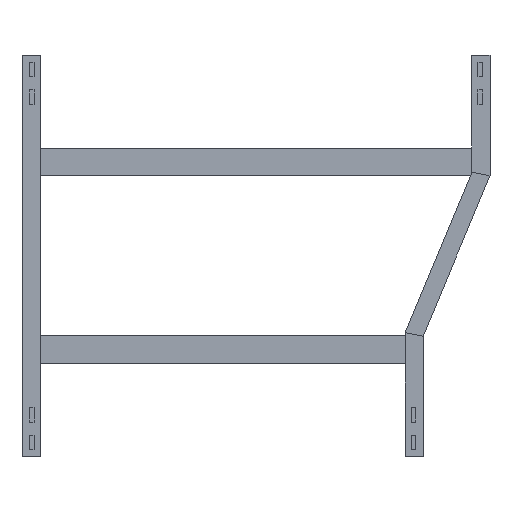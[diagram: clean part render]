
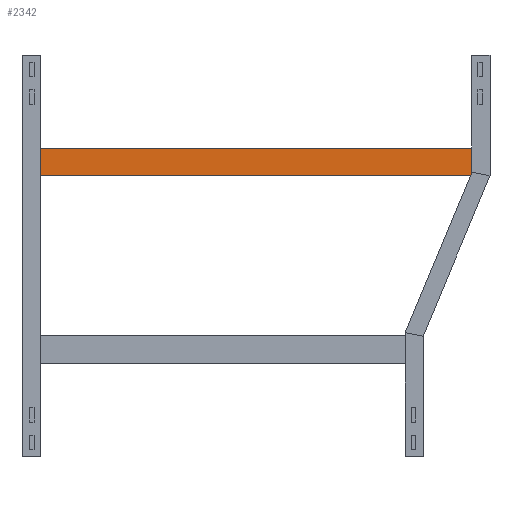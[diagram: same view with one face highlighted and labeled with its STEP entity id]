
A CAD part, front view. The second image highlights one B-rep face of the part: STEP entity #2342.
In plain terms, the highlighted planar face has unit normal (0, -1, 0).
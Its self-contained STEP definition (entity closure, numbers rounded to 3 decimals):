
#33 = VECTOR ( 'NONE', #3255, 1000. ) ;
#128 = EDGE_LOOP ( 'NONE', ( #879, #2825, #2203, #3355 ) ) ;
#238 = LINE ( 'NONE', #1352, #2893 ) ;
#340 = VECTOR ( 'NONE', #2614, 1000. ) ;
#483 = DIRECTION ( 'NONE',  ( -1., 0., 0. ) ) ;
#517 = LINE ( 'NONE', #1363, #33 ) ;
#544 = VERTEX_POINT ( 'NONE', #745 ) ;
#650 = CARTESIAN_POINT ( 'NONE',  ( 348., 0., 20.25 ) ) ;
#744 = AXIS2_PLACEMENT_3D ( 'NONE', #650, #1697, #2244 ) ;
#745 = CARTESIAN_POINT ( 'NONE',  ( 348., 0., -20.25 ) ) ;
#879 = ORIENTED_EDGE ( 'NONE', *, *, #3278, .T. ) ;
#1021 = EDGE_CURVE ( 'NONE', #544, #3056, #238, .T. ) ;
#1127 = FACE_OUTER_BOUND ( 'NONE', #128, .T. ) ;
#1273 = EDGE_CURVE ( 'NONE', #2671, #2582, #1835, .T. ) ;
#1352 = CARTESIAN_POINT ( 'NONE',  ( 348., 0., -20.25 ) ) ;
#1363 = CARTESIAN_POINT ( 'NONE',  ( 348., 0., 20.25 ) ) ;
#1507 = CARTESIAN_POINT ( 'NONE',  ( 348., 0., 20.25 ) ) ;
#1525 = EDGE_CURVE ( 'NONE', #2671, #544, #517, .T. ) ;
#1560 = VECTOR ( 'NONE', #2404, 1000. ) ;
#1697 = DIRECTION ( 'NONE',  ( 0., 1., 0. ) ) ;
#1789 = LINE ( 'NONE', #2307, #340 ) ;
#1835 = LINE ( 'NONE', #1507, #1560 ) ;
#2004 = PLANE ( 'NONE',  #744 ) ;
#2203 = ORIENTED_EDGE ( 'NONE', *, *, #1525, .F. ) ;
#2244 = DIRECTION ( 'NONE',  ( 0., 0., 1. ) ) ;
#2307 = CARTESIAN_POINT ( 'NONE',  ( -348., 0., 20.25 ) ) ;
#2342 = ADVANCED_FACE ( 'NONE', ( #1127 ), #2004, .F. ) ;
#2404 = DIRECTION ( 'NONE',  ( -1., 0., 0. ) ) ;
#2460 = CARTESIAN_POINT ( 'NONE',  ( 348., 0., 20.25 ) ) ;
#2582 = VERTEX_POINT ( 'NONE', #3164 ) ;
#2614 = DIRECTION ( 'NONE',  ( 0., 0., -1. ) ) ;
#2671 = VERTEX_POINT ( 'NONE', #2460 ) ;
#2825 = ORIENTED_EDGE ( 'NONE', *, *, #1021, .F. ) ;
#2893 = VECTOR ( 'NONE', #483, 1000. ) ;
#3056 = VERTEX_POINT ( 'NONE', #3530 ) ;
#3164 = CARTESIAN_POINT ( 'NONE',  ( -348., 0., 20.25 ) ) ;
#3255 = DIRECTION ( 'NONE',  ( 0., 0., -1. ) ) ;
#3278 = EDGE_CURVE ( 'NONE', #2582, #3056, #1789, .T. ) ;
#3355 = ORIENTED_EDGE ( 'NONE', *, *, #1273, .T. ) ;
#3530 = CARTESIAN_POINT ( 'NONE',  ( -348., 0., -20.25 ) ) ;
